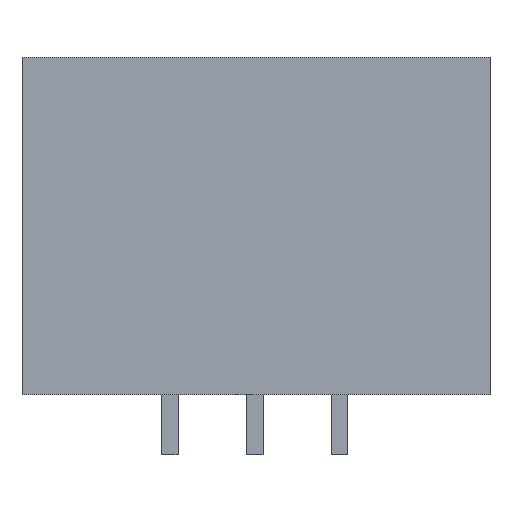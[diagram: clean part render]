
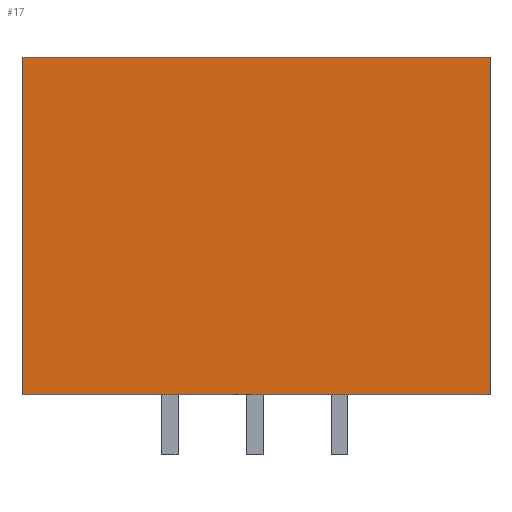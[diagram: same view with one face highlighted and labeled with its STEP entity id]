
A CAD part, left-side view. The second image highlights one B-rep face of the part: STEP entity #17.
In plain terms, the highlighted planar face has unit normal (-1, 0, 0).
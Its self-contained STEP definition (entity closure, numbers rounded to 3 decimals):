
#17 = ADVANCED_FACE('',(#18),#52,.F.);
#18 = FACE_BOUND('',#19,.F.);
#19 = EDGE_LOOP('',(#20,#30,#38,#46));
#20 = ORIENTED_EDGE('',*,*,#21,.F.);
#21 = EDGE_CURVE('',#22,#24,#26,.T.);
#22 = VERTEX_POINT('',#23);
#23 = CARTESIAN_POINT('',(-3.89,-9.58,0.));
#24 = VERTEX_POINT('',#25);
#25 = CARTESIAN_POINT('',(-3.89,-9.58,10.1));
#26 = LINE('',#27,#28);
#27 = CARTESIAN_POINT('',(-3.89,-9.58,0.));
#28 = VECTOR('',#29,1.);
#29 = DIRECTION('',(0.,0.,1.));
#30 = ORIENTED_EDGE('',*,*,#31,.T.);
#31 = EDGE_CURVE('',#22,#32,#34,.T.);
#32 = VERTEX_POINT('',#33);
#33 = CARTESIAN_POINT('',(-3.89,4.42,0.));
#34 = LINE('',#35,#36);
#35 = CARTESIAN_POINT('',(-3.89,-9.58,0.));
#36 = VECTOR('',#37,1.);
#37 = DIRECTION('',(-0.,1.,0.));
#38 = ORIENTED_EDGE('',*,*,#39,.T.);
#39 = EDGE_CURVE('',#32,#40,#42,.T.);
#40 = VERTEX_POINT('',#41);
#41 = CARTESIAN_POINT('',(-3.89,4.42,10.1));
#42 = LINE('',#43,#44);
#43 = CARTESIAN_POINT('',(-3.89,4.42,0.));
#44 = VECTOR('',#45,1.);
#45 = DIRECTION('',(0.,0.,1.));
#46 = ORIENTED_EDGE('',*,*,#47,.F.);
#47 = EDGE_CURVE('',#24,#40,#48,.T.);
#48 = LINE('',#49,#50);
#49 = CARTESIAN_POINT('',(-3.89,-9.58,10.1));
#50 = VECTOR('',#51,1.);
#51 = DIRECTION('',(-0.,1.,0.));
#52 = PLANE('',#53);
#53 = AXIS2_PLACEMENT_3D('',#54,#55,#56);
#54 = CARTESIAN_POINT('',(-3.89,-9.58,0.));
#55 = DIRECTION('',(1.,0.,-0.));
#56 = DIRECTION('',(0.,0.,1.));
